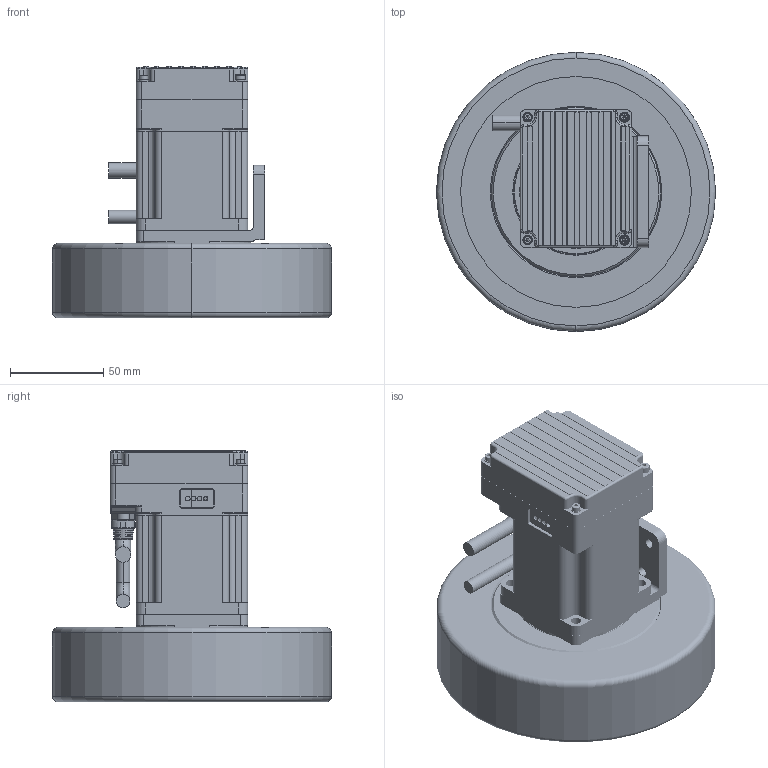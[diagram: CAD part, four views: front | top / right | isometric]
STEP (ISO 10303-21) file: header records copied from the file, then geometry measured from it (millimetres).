
FILE_DESCRIPTION (( 'STEP AP203' ), '1' );
FILE_NAME ('淕儂蚾饜.STEP', '2025-02-12T01:03:17', ( '' ), ( '' ), 'SwSTEP 2.0', 'SolidWorks 2023', '' );
FILE_SCHEMA (( 'CONFIG_CONTROL_DESIGN' ));
Products named in the file (1): 整机装配
Bounding box: 150 x 150 x 135.2 mm (x, y, z)
Surface area: 259162.6 mm2 (no closed solid volume)
Topology: 0 solids, 169 shells, 3444 faces, 9031 edges, 5415 vertices
Faces by surface type: cylinder 1289, plane 1033, sphere 536, torus 289, cone 236, bspline 61
Entity records: 132557 total; most frequent: CARTESIAN_POINT 52718, DIRECTION 17381, ORIENTED_EDGE 16268, EDGE_CURVE 8188, AXIS2_PLACEMENT_3D 7309, VERTEX_POINT 5155, CIRCLE 3925, EDGE_LOOP 3761
